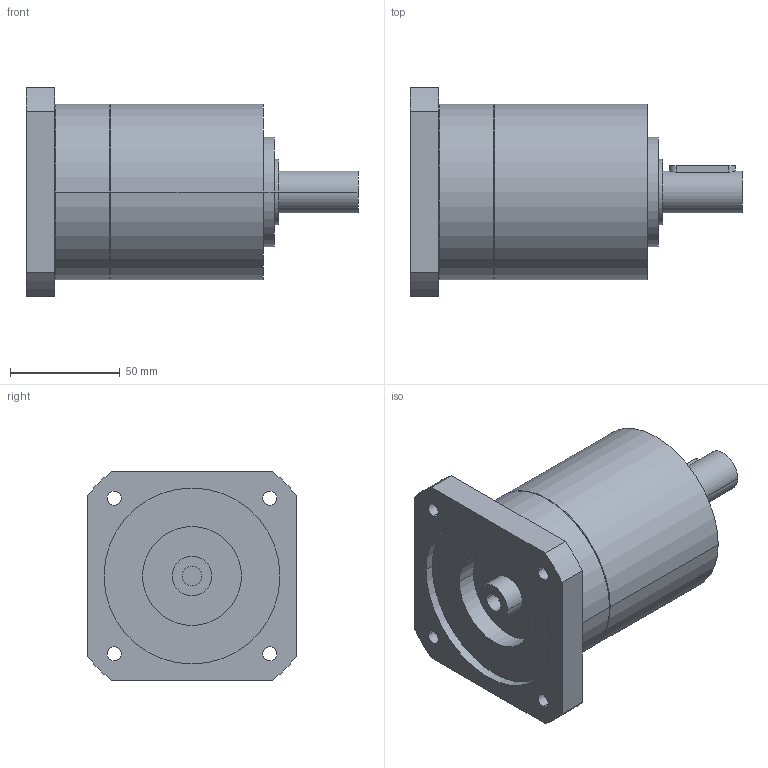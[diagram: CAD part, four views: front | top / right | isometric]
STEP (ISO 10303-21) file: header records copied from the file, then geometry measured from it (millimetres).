
FILE_DESCRIPTION(('CoCreate Modeling STEP Export'),'2;1');
FILE_NAME('GPR100_ig-3-4-5-6_19_B14_9_P06.stp','2014-08-26T10:53:30',(''),(''),'CoCreate Modeling STEP processor for AP214 (Solid Model)','CoCreate Modeling 16.00C 25-Feb-2009 (C) Parametric Technology GmbH','');
FILE_SCHEMA(('AUTOMOTIVE_DESIGN { 1 0 10303 214 1 1 1 1 }'));
Length unit declared in the file: millimetre
Products named in the file (2): GPR100_ig-3-4-5-6_19_B14_9_P06
Assembly tree (1 placements, depth 2):
  GPR100_ig-3-4-5-6_19_B14_9_P06
    GPR100_ig-3-4-5-6_19_B14_9_P06
Bounding box: 151 x 95 x 95 mm (x, y, z)
Volume: 576119.3 mm3; surface area: 55621.2 mm2
Topology: 1 solids, 1 shells, 70 faces, 189 edges, 133 vertices
Faces by surface type: cylinder 42, plane 22, cone 6
Entity records: 1944 total; most frequent: ORIENTED_EDGE 374, CARTESIAN_POINT 361, DIRECTION 262, EDGE_CURVE 187, VERTEX_POINT 133, AXIS2_PLACEMENT_3D 98, EDGE_LOOP 92, FACE_OUTER_BOUND 70
